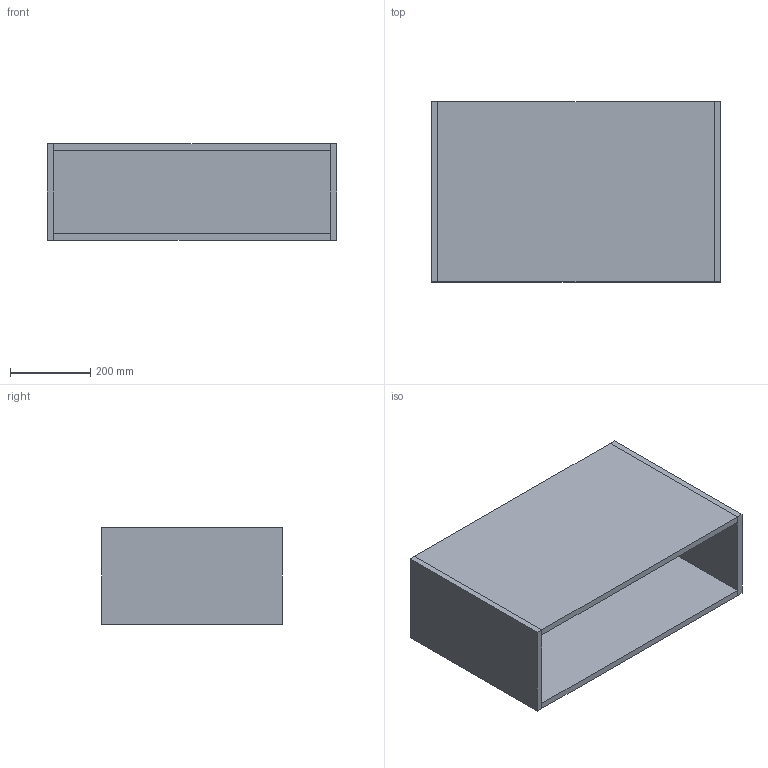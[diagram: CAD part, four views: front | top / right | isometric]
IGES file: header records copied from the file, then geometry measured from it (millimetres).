
Start section: Data from Parasolid IGES Translator 19.0.9, Copyright(c) 2006 Siemens PL M Software. All Rights Reserved.
Global section: file name: noorth-SI-H 24 D 47 W 72_8300.igs; native system: By Siemens PLM Incorporated; preprocessor: XPlus GENERIC/IGES 19.0.9; author: Noname; organization: Noname; date: 20200530.115314; units: metre
Bounding box: 720.01 x 448.06 x 240 mm (x, y, z)
Volume: 13714428.5 mm3; surface area: 2071261.9 mm2
Topology: 5 solids, 5 shells, 30 faces, 60 edges, 40 vertices
Faces by surface type: plane 30
